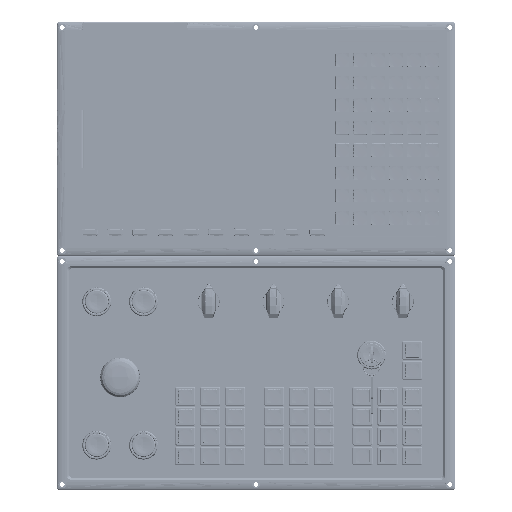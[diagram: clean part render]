
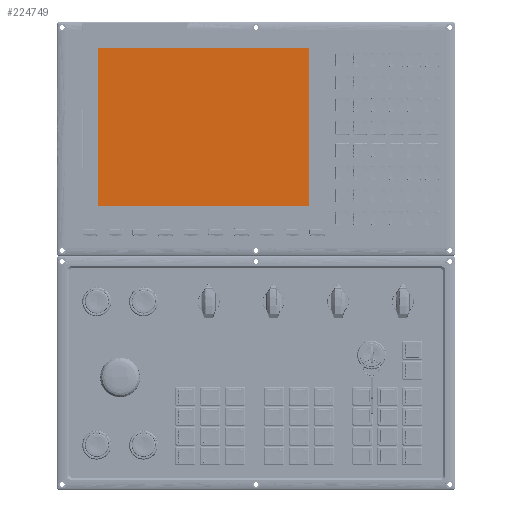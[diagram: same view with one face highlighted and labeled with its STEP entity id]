
A CAD part, top view. The second image highlights one B-rep face of the part: STEP entity #224749.
In plain terms, the highlighted planar face has unit normal (0, 0, 1).
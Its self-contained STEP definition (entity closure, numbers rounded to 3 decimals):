
#10757 = LINE ( 'NONE', #113528, #282153 ) ;
#11303 = CARTESIAN_POINT ( 'NONE',  ( -105.6, -79.2, 1.82 ) ) ;
#17763 = DIRECTION ( 'NONE',  ( 1., 0., 0. ) ) ;
#18717 = ORIENTED_EDGE ( 'NONE', *, *, #234172, .F. ) ;
#19981 = LINE ( 'NONE', #205324, #155692 ) ;
#23680 = FACE_OUTER_BOUND ( 'NONE', #248163, .T. ) ;
#31662 = DIRECTION ( 'NONE',  ( 0., 0., 1. ) ) ;
#55865 = PLANE ( 'NONE',  #177894 ) ;
#57381 = ORIENTED_EDGE ( 'NONE', *, *, #195386, .F. ) ;
#78221 = ORIENTED_EDGE ( 'NONE', *, *, #157598, .F. ) ;
#79044 = DIRECTION ( 'NONE',  ( 1., 0., 0. ) ) ;
#91464 = LINE ( 'NONE', #190872, #227134 ) ;
#93007 = DIRECTION ( 'NONE',  ( 0., 1., 0. ) ) ;
#112195 = VERTEX_POINT ( 'NONE', #11303 ) ;
#113528 = CARTESIAN_POINT ( 'NONE',  ( 105.6, 86.4, 1.82 ) ) ;
#124568 = CARTESIAN_POINT ( 'NONE',  ( 105.6, 79.2, 1.82 ) ) ;
#126141 = LINE ( 'NONE', #142351, #152380 ) ;
#142351 = CARTESIAN_POINT ( 'NONE',  ( 112.8, -79.2, 1.82 ) ) ;
#152380 = VECTOR ( 'NONE', #192875, 1000. ) ;
#155692 = VECTOR ( 'NONE', #17763, 1000. ) ;
#157598 = EDGE_CURVE ( 'NONE', #112195, #170438, #91464, .T. ) ;
#169139 = EDGE_CURVE ( 'NONE', #170438, #242310, #19981, .T. ) ;
#170438 = VERTEX_POINT ( 'NONE', #239632 ) ;
#175917 = CARTESIAN_POINT ( 'NONE',  ( 112.8, 86.4, 1.82 ) ) ;
#177894 = AXIS2_PLACEMENT_3D ( 'NONE', #175917, #31662, #79044 ) ;
#190872 = CARTESIAN_POINT ( 'NONE',  ( -105.6, 86.4, 1.82 ) ) ;
#192875 = DIRECTION ( 'NONE',  ( -1., 0., 0. ) ) ;
#195386 = EDGE_CURVE ( 'NONE', #202937, #112195, #126141, .T. ) ;
#202937 = VERTEX_POINT ( 'NONE', #268345 ) ;
#205324 = CARTESIAN_POINT ( 'NONE',  ( 112.8, 79.2, 1.82 ) ) ;
#224749 = ADVANCED_FACE ( 'NONE', ( #23680 ), #55865, .T. ) ;
#227134 = VECTOR ( 'NONE', #93007, 1000. ) ;
#234172 = EDGE_CURVE ( 'NONE', #242310, #202937, #10757, .T. ) ;
#239632 = CARTESIAN_POINT ( 'NONE',  ( -105.6, 79.2, 1.82 ) ) ;
#242310 = VERTEX_POINT ( 'NONE', #124568 ) ;
#248163 = EDGE_LOOP ( 'NONE', ( #78221, #57381, #18717, #274752 ) ) ;
#268345 = CARTESIAN_POINT ( 'NONE',  ( 105.6, -79.2, 1.82 ) ) ;
#274752 = ORIENTED_EDGE ( 'NONE', *, *, #169139, .F. ) ;
#281989 = DIRECTION ( 'NONE',  ( 0., -1., 0. ) ) ;
#282153 = VECTOR ( 'NONE', #281989, 1000. ) ;
